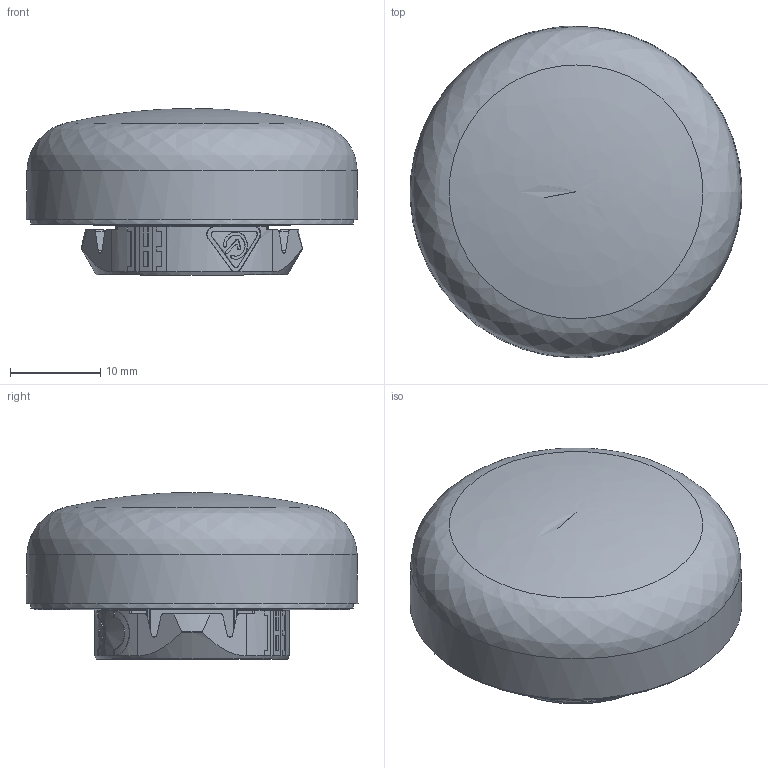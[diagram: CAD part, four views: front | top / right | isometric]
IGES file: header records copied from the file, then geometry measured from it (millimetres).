
Global section: file name: 15015090_00; native system: Autodesk Inventor 2017; preprocessor: unknown; author: Ennio; date: 20220621.133534; units: millimetre
Bounding box: 36.76 x 36.8 x 18.5 mm (x, y, z)
Volume: 13601 mm3; surface area: 3930.9 mm2
Topology: 1 solids, 1 shells, 335 faces, 908 edges, 578 vertices
Faces by surface type: bspline 335
